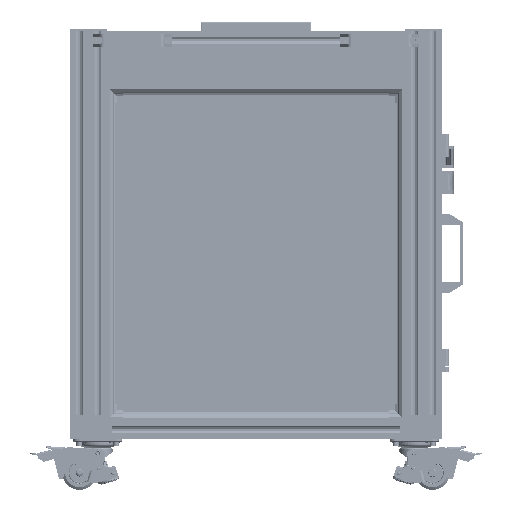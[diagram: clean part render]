
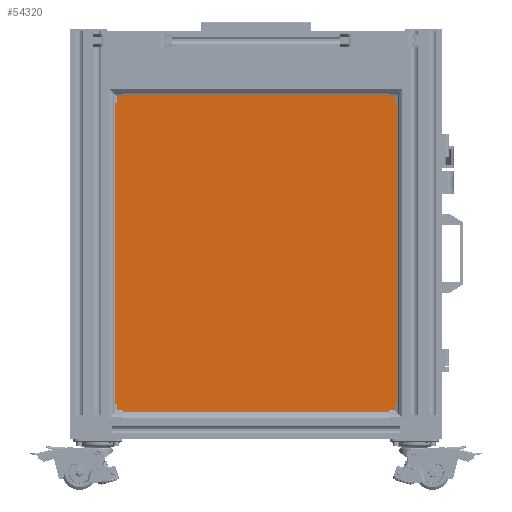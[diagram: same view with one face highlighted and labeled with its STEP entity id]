
A CAD part, left-side view. The second image highlights one B-rep face of the part: STEP entity #54320.
In plain terms, the highlighted planar face has unit normal (-1, 0, 0) as drawn and (0, 0, 1) by its records, which use the part's own axes.
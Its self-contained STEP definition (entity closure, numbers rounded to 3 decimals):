
#54320=ADVANCED_FACE('',(#104311),#104312,.T.);
#104311=FACE_OUTER_BOUND('',#165367,.T.);
#104312=PLANE('',#165368);
#165367=EDGE_LOOP('',(#351318,#351319,#351320,#351321));
#165368=AXIS2_PLACEMENT_3D('',#351322,#351323,#351324);
#351318=ORIENTED_EDGE('',*,*,#466978,.T.);
#351319=ORIENTED_EDGE('',*,*,#466983,.T.);
#351320=ORIENTED_EDGE('',*,*,#466987,.T.);
#351321=ORIENTED_EDGE('',*,*,#466990,.T.);
#351322=CARTESIAN_POINT('',(-468.0,37.556,5.0));
#351323=DIRECTION('',(0.0,0.0,1.0));
#351324=DIRECTION('',(1.0,0.0,0.0));
#466978=EDGE_CURVE('',#528105,#528103,#528106,.T.);
#466983=EDGE_CURVE('',#528103,#528111,#528113,.T.);
#466987=EDGE_CURVE('',#528111,#528117,#528119,.T.);
#466990=EDGE_CURVE('',#528117,#528105,#528122,.T.);
#528103=VERTEX_POINT('',#619220);
#528105=VERTEX_POINT('',#619223);
#528106=LINE('',#619224,#619225);
#528111=VERTEX_POINT('',#619232);
#528113=LINE('',#619235,#619236);
#528117=VERTEX_POINT('',#619241);
#528119=LINE('',#619244,#619245);
#528122=LINE('',#619249,#619250);
#619220=CARTESIAN_POINT('',(-468.0,37.556,5.0));
#619223=CARTESIAN_POINT('',(-468.0,672.556,5.0));
#619224=CARTESIAN_POINT('',(-468.0,672.556,5.0));
#619225=VECTOR('',#769234,1.0);
#619232=CARTESIAN_POINT('',(245.4,37.556,5.0));
#619235=CARTESIAN_POINT('',(-468.0,37.556,5.0));
#619236=VECTOR('',#769238,1.0);
#619241=CARTESIAN_POINT('',(245.4,672.556,5.0));
#619244=CARTESIAN_POINT('',(245.4,37.556,5.0));
#619245=VECTOR('',#769241,1.0);
#619249=CARTESIAN_POINT('',(245.4,672.556,5.0));
#619250=VECTOR('',#769243,1.0);
#769234=DIRECTION('',(0.0,-1.0,0.0));
#769238=DIRECTION('',(1.0,0.0,0.0));
#769241=DIRECTION('',(0.0,1.0,0.0));
#769243=DIRECTION('',(-1.0,0.0,0.0));
